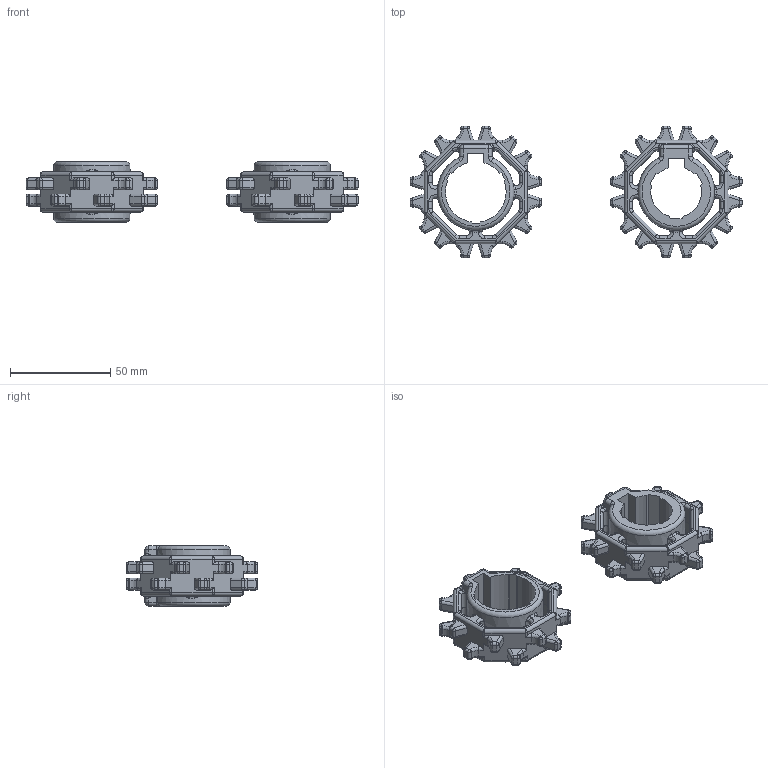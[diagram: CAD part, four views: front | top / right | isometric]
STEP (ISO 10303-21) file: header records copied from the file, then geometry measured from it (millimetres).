
FILE_DESCRIPTION(/* description */ (''),/* implementation_level */ '2;1');
FILE_NAME(/* name */ 'HS-2500-8T.stp',/* time_stamp */ '2024-03-26T11:15:34+08:00',/* author */ (''),/* organization */ (''),/* preprocessor_version */ 'ST-DEVELOPER v15',/* originating_system */ 'SIEMENS PLM Software NX 8.5',/* authorisation */ '');
FILE_SCHEMA (('AP203_CONFIGURATION_CONTROLLED_3D_DESIGN_OF_MECHANICAL_PARTS_AND_ASSEMBLIES_MIM_LF { 1 0 10303 403 2 1 2}'));
Length unit declared in the file: millimetre
Products named in the file (1): Admi2A2C2D10jieg
Bounding box: 165.6 x 65.6 x 30.1 mm (x, y, z)
Volume: 67316 mm3; surface area: 31398 mm2
Topology: 2 solids, 2 shells, 1172 faces, 2824 edges, 1504 vertices
Faces by surface type: cylinder 528, plane 260, sphere 136, bspline 120, torus 100, cone 28
Entity records: 46104 total; most frequent: CARTESIAN_POINT 12415, ORIENTED_EDGE 5376, DIRECTION 5322, EDGE_CURVE 2688, AXIS2_PLACEMENT_3D 2011, VERTEX_POINT 1504, LINE 1300, VECTOR 1300
